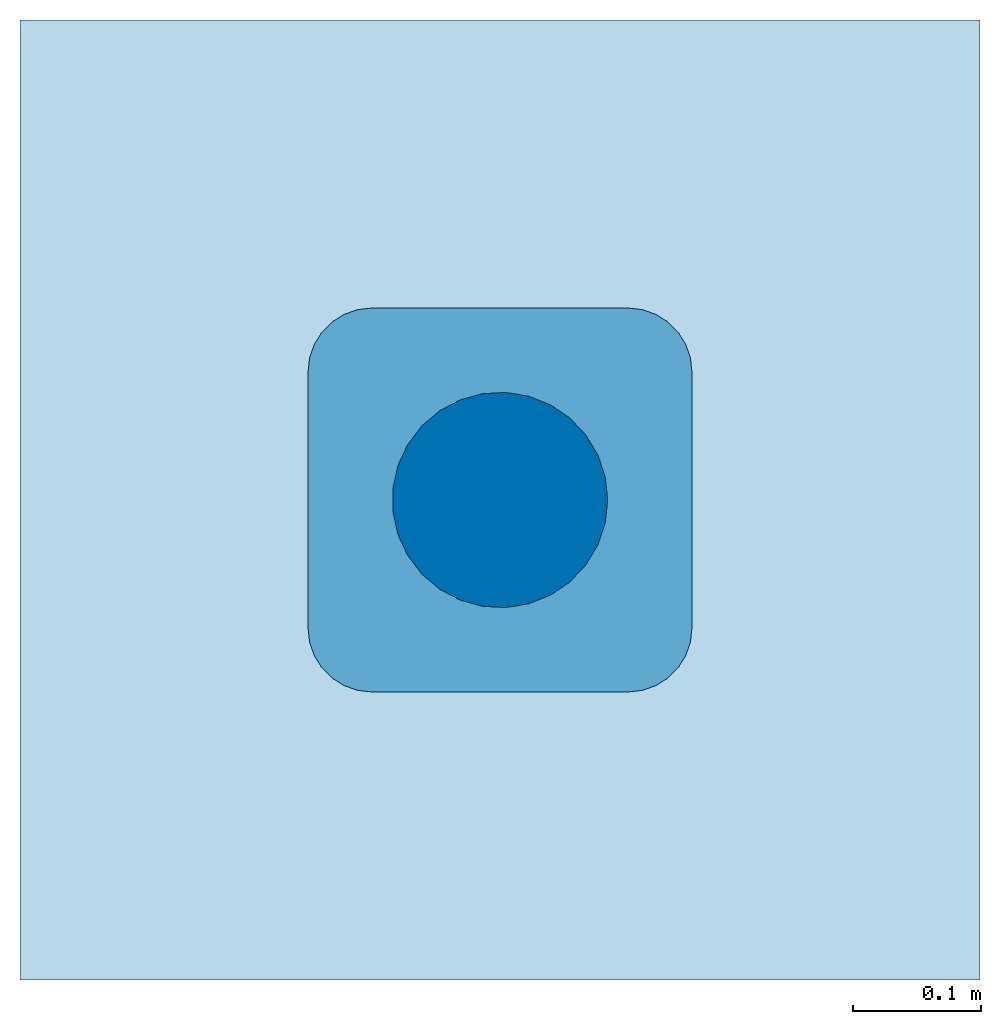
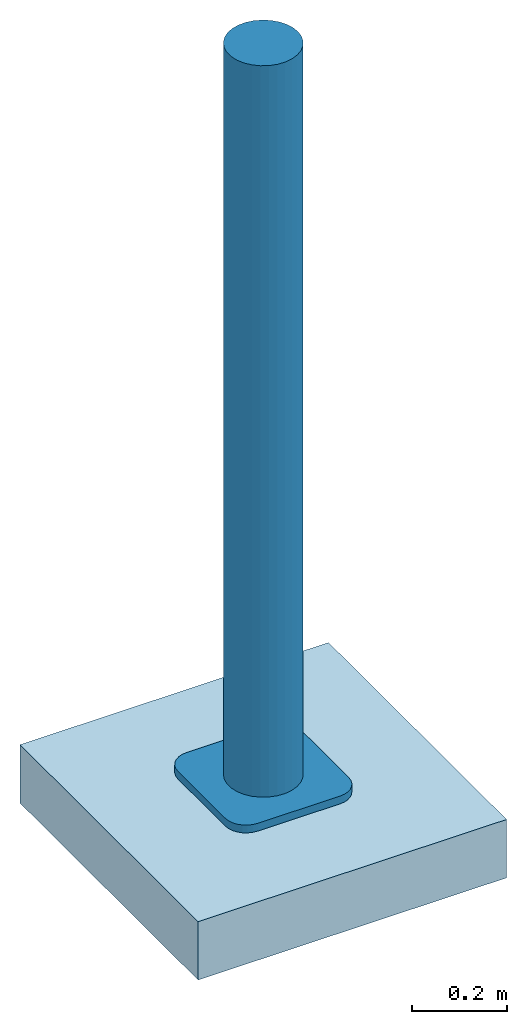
# One storey: 1 column, 1 slab.
"""IFC4 building model written with IfcOpenShell, lengths in metres."""

import ifcopenshell
import ifcopenshell.guid

model = None  # the IFC model being written
_history = None  # IfcOwnerHistory: only IFC2X3 demands one
_inside = {}  # id of a spatial element -> (the spatial element, [elements in it])
_under = {}  # id of a project, library or spatial element -> (it, [spatial elements below it])
_declared = {}  # id of a project -> (the project, [libraries it declares])
_typed = {}  # id of a type object -> (the type object, [elements of that type])
_made_of = {}  # id of a material, layer set ... -> (it, [elements and type objects made of it])


def new_model(schema):
    """Start an empty IFC model of exactly this schema.

    Asked for "IFC4X3", IfcOpenShell would pick the latest addendum, in which some entities
    have other attributes; the version numbers below select the first issue.
    IFC2X3 requires an IfcOwnerHistory on every rooted entity: one is made here for all.
    """
    global model, _history
    if schema == "IFC4X3":
        model = ifcopenshell.file(schema_version=(4, 3, 0, 0))
    else:
        model = ifcopenshell.file(schema=schema)
    _inside.clear()
    _under.clear()
    _declared.clear()
    _typed.clear()
    _made_of.clear()
    _history = None
    if model.schema == "IFC2X3":
        org = make("IfcOrganization", Name="unknown")
        user = make(
            "IfcPersonAndOrganization",
            ThePerson=make("IfcPerson", FamilyName="unknown"),
            TheOrganization=org,
        )
        app = make(
            "IfcApplication",
            ApplicationDeveloper=org,
            Version="unknown",
            ApplicationFullName="unknown",
            ApplicationIdentifier="unknown",
        )
        _history = make(
            "IfcOwnerHistory",
            OwningUser=user,
            OwningApplication=app,
            ChangeAction="ADDED",
            CreationDate=0,
        )
    return model


def make(cls, **values):
    """One entity of the class cls with the attributes given. An attribute that is None is left unset."""
    return model.create_entity(
        cls, **{name: value for name, value in values.items() if value is not None}
    )


def entity(cls, *values):
    """Any entity or typed value of the class cls, its attributes in the order of the schema. None: left unset."""
    e = model.create_entity(cls)
    for i, value in enumerate(values):
        if value is not None:
            e[i] = value
    return e


def rooted(cls, **values):
    """An entity with a GlobalId (a new one), such as an element, a storey or a relation."""
    return make(cls, GlobalId=ifcopenshell.guid.new(), OwnerHistory=_history, **values)


def si_unit(unit_type, name, prefix=None):
    """IfcSIUnit, for example si_unit("LENGTHUNIT", "METRE", prefix="MILLI")."""
    return make("IfcSIUnit", UnitType=unit_type, Prefix=prefix, Name=name)


def converted_unit(unit_type, name, factor, base, dimensions=None, offset=None):
    """IfcConversionBasedUnit, such as the inch: factor (a typed value) times the base unit."""
    return make(
        "IfcConversionBasedUnit"
        if offset is None
        else "IfcConversionBasedUnitWithOffset",
        ConversionOffset=offset,
        Dimensions=None
        if dimensions is None
        else entity("IfcDimensionalExponents", *dimensions),
        UnitType=unit_type,
        Name=name,
        ConversionFactor=make(
            "IfcMeasureWithUnit", ValueComponent=factor, UnitComponent=base
        ),
    )


def assignment(units):
    """IfcUnitAssignment: the units of a project."""
    return None if units is None else make("IfcUnitAssignment", Units=units)


def point(xyz):
    """IfcCartesianPoint."""
    return None if xyz is None else make("IfcCartesianPoint", Coordinates=xyz)


def direction(xyz):
    """IfcDirection."""
    return None if xyz is None else make("IfcDirection", DirectionRatios=xyz)


def frame(location, z_axis=None, x_axis=None):
    """IfcAxis2Placement3D, a coordinate frame: its origin and axes. An axis left out is left unset."""
    return make(
        "IfcAxis2Placement3D",
        Location=point(location),
        Axis=direction(z_axis),
        RefDirection=direction(x_axis),
    )


def frame_2d(location, x_axis=None):
    """IfcAxis2Placement2D, a coordinate frame in the plane: its origin and x axis."""
    return make(
        "IfcAxis2Placement2D", Location=point(location), RefDirection=direction(x_axis)
    )


def origin():
    """The frame at (0, 0, 0) with its axes left unset."""
    return frame((0.0, 0.0, 0.0))


def place(relative_to, where):
    """IfcLocalPlacement: puts the frame where relative to a parent placement (None: the world)."""
    return make(
        "IfcLocalPlacement", PlacementRelTo=relative_to, RelativePlacement=where
    )


def context(
    kind, dimensions, precision=None, world=None, true_north=None, identifier=None
):
    """IfcGeometricRepresentationContext, for example the 3D "Model" context."""
    return make(
        "IfcGeometricRepresentationContext",
        ContextIdentifier=identifier,
        ContextType=kind,
        CoordinateSpaceDimension=dimensions,
        Precision=precision,
        WorldCoordinateSystem=world,
        TrueNorth=true_north,
    )


def subcontext(parent, identifier, kind, view, scale=None):
    """IfcGeometricRepresentationSubContext, for example "Body" below "Model"."""
    return make(
        "IfcGeometricRepresentationSubContext",
        ContextIdentifier=identifier,
        ContextType=kind,
        ParentContext=parent,
        TargetScale=scale,
        TargetView=view,
    )


def project(units=None, contexts=None):
    """IfcProject with its units and contexts."""
    return rooted(
        "IfcProject",
        Name="project",
        RepresentationContexts=contexts,
        UnitsInContext=assignment(units),
    )


def spatial(cls, under=None, at=None, **own):
    """A site, building, storey or space (cls), placed at a placement, below another one or the project."""
    s = rooted(cls, ObjectPlacement=at, **own)
    if under is not None:
        _under.setdefault(under.id(), (under, []))[1].append(s)
    return s


def polyline(points):
    """IfcPolyline through the points."""
    return make("IfcPolyline", Points=[point(p) for p in points])


def circle_curve(where, radius):
    """IfcCircle in the frame where."""
    return make("IfcCircle", Position=where, Radius=radius)


def parameter(value):
    """IfcParameterValue: where a trimmed curve begins or ends, as a parameter of its basis curve."""
    return model.create_entity("IfcParameterValue", value)


def trimmed(basis, trim1, trim2, sense, master):
    """IfcTrimmedCurve: the piece of a basis curve between two trims."""
    return make(
        "IfcTrimmedCurve",
        BasisCurve=basis,
        Trim1=trim1,
        Trim2=trim2,
        SenseAgreement=sense,
        MasterRepresentation=master,
    )


def segment(curve, same_sense, transition):
    """IfcCompositeCurveSegment."""
    return make(
        "IfcCompositeCurveSegment",
        Transition=transition,
        SameSense=same_sense,
        ParentCurve=curve,
    )


def composite_curve(segments, self_intersect=None):
    """IfcCompositeCurve: segments joined end to end."""
    return make("IfcCompositeCurve", Segments=segments, SelfIntersect=self_intersect)


def profile(cls, at=None, kind="AREA", **sizes):
    """A parametric profile (cls). Its sizes go by their IFC names, for example OverallWidth=200.0."""
    return make(cls, ProfileType=kind, Position=at, **sizes)


def rectangle(**sizes):
    """IfcRectangleProfileDef."""
    return profile("IfcRectangleProfileDef", **sizes)


def circle(**sizes):
    """IfcCircleProfileDef."""
    return profile("IfcCircleProfileDef", **sizes)


def outline(outer, holes=None, kind="AREA"):
    """IfcArbitraryClosedProfileDef: a profile drawn as a closed curve; with holes, ...WithVoids."""
    if holes is None:
        return make("IfcArbitraryClosedProfileDef", ProfileType=kind, OuterCurve=outer)
    return make(
        "IfcArbitraryProfileDefWithVoids",
        ProfileType=kind,
        OuterCurve=outer,
        InnerCurves=holes,
    )


def extrude(swept, where, along, depth):
    """IfcExtrudedAreaSolid: the profile swept, set in the frame where, extruded along a direction by depth."""
    return make(
        "IfcExtrudedAreaSolid",
        SweptArea=swept,
        Position=where,
        ExtrudedDirection=direction(along),
        Depth=depth,
    )


def shape(context_of_items, identifier, shape_type, items):
    """IfcShapeRepresentation: the items that make up one representation, for example the "Body"."""
    return make(
        "IfcShapeRepresentation",
        ContextOfItems=context_of_items,
        RepresentationIdentifier=identifier,
        RepresentationType=shape_type,
        Items=items,
    )


def source(mapping_origin, context_of_items, identifier, shape_type, items):
    """IfcRepresentationMap: a shape defined once, which mapped items show again and again."""
    return make(
        "IfcRepresentationMap",
        MappingOrigin=mapping_origin,
        MappedRepresentation=shape(context_of_items, identifier, shape_type, items),
    )


def transform(
    local_origin,
    x_axis=None,
    y_axis=None,
    z_axis=None,
    scale=None,
    scale2=None,
    scale3=None,
    uniform=True,
):
    """IfcCartesianTransformationOperator3D, or its non-uniform kind. x_axis, y_axis, z_axis: its Axis1, 2, 3."""
    if uniform:
        return make(
            "IfcCartesianTransformationOperator3D",
            Axis1=direction(x_axis),
            Axis2=direction(y_axis),
            LocalOrigin=point(local_origin),
            Scale=scale,
            Axis3=direction(z_axis),
        )
    return make(
        "IfcCartesianTransformationOperator3DnonUniform",
        Axis1=direction(x_axis),
        Axis2=direction(y_axis),
        LocalOrigin=point(local_origin),
        Scale=scale,
        Axis3=direction(z_axis),
        Scale2=scale2,
        Scale3=scale3,
    )


def mapped(mapping_source, mapping_target):
    """IfcMappedItem: shows the shape of a source again, moved by a transform."""
    return make(
        "IfcMappedItem", MappingSource=mapping_source, MappingTarget=mapping_target
    )


def material(Name=None, Category=None):
    """IfcMaterial."""
    return make("IfcMaterial", Name=Name, Category=Category)


def material_profile(
    of_material, cross_section, Name=None, Category=None, Priority=None
):
    """IfcMaterialProfile: a cross section and its material."""
    return make(
        "IfcMaterialProfile",
        Name=Name,
        Material=of_material,
        Profile=cross_section,
        Priority=Priority,
        Category=Category,
    )


def profile_set(profiles, Name=None, composite=None):
    """IfcMaterialProfileSet."""
    return make(
        "IfcMaterialProfileSet",
        Name=Name,
        MaterialProfiles=profiles,
        CompositeProfile=composite,
    )


def made_of(thing, what):
    """Note that an element or type object is made of a material, layer set ...; save() writes the relation."""
    if what is not None:
        _made_of.setdefault(what.id(), (what, []))[1].append(thing)
    return thing


def type_object(cls, material=None, **own):
    """A type object (cls), such as IfcWallType, which elements share."""
    return made_of(rooted(cls, **own), material)


def type_shapes(of_type, sources):
    """Give a type object the sources (RepresentationMaps) that its elements show as mapped items."""
    of_type.RepresentationMaps = sources


def element(
    cls,
    number,
    at=None,
    inside=None,
    cuts=None,
    type_object=None,
    material=None,
    context=None,
    identifier="Body",
    shape_type=None,
    held_by="IfcProductDefinitionShape",
    body=None,
    shapes=None,
    **own,
):
    """One element of the class cls, such as IfcWall. Its Tag is "e" and its number.

    at: its placement. inside: the storey or other place that contains it. cuts: it is an
    opening in that element (IfcRelVoidsElement). A single representation is given by context,
    identifier, shape_type and body (its items); several are given by shapes. held_by: the class
    of the entity that holds the representations. save() writes the other relations.
    """
    e = rooted(cls, Tag="e%d" % number, ObjectPlacement=at, **own)
    if body is not None:
        shapes = [shape(context, identifier, shape_type, body)]
    if shapes is not None:
        e.Representation = make(held_by, Representations=shapes)
    if inside is not None:
        _inside.setdefault(inside.id(), (inside, []))[1].append(e)
    if cuts is not None:
        rooted(
            "IfcRelVoidsElement", RelatingBuildingElement=cuts, RelatedOpeningElement=e
        )
    if type_object is not None:
        _typed.setdefault(type_object.id(), (type_object, []))[1].append(e)
    return made_of(e, material)


def aggregate(whole, parts):
    """IfcRelAggregates: a whole, such as a stair, and the parts it consists of."""
    return rooted("IfcRelAggregates", RelatingObject=whole, RelatedObjects=parts)


def save(model, path):
    """Write the relations noted so far, then the file.

    IfcRelAggregates (storeys below a building ...), IfcRelContainedInSpatialStructure (elements
    in a storey), IfcRelDefinesByType, IfcRelAssociatesMaterial and IfcRelDeclares: one each for
    every whole, place, type object, material and project.
    """
    for whole, parts in _under.values():
        aggregate(whole, parts)
    for where, things in _inside.values():
        rooted(
            "IfcRelContainedInSpatialStructure",
            RelatedElements=things,
            RelatingStructure=where,
        )
    for kind, things in _typed.values():
        rooted("IfcRelDefinesByType", RelatedObjects=things, RelatingType=kind)
    for what, things in _made_of.values():
        rooted("IfcRelAssociatesMaterial", RelatedObjects=things, RelatingMaterial=what)
    for by, libraries in _declared.values():
        rooted("IfcRelDeclares", RelatingContext=by, RelatedDefinitions=libraries)
    model.write(path)


model = new_model("IFC4")

# Units and contexts
model_context = context("Model", 3, precision=1e-05, world=origin(), true_north=direction((6.123031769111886e-17, 1.0)))
body_context = subcontext(model_context, "Body", "Model", "MODEL_VIEW")
ifc_project = project(units=[si_unit("LENGTHUNIT", "METRE"), converted_unit("PLANEANGLEUNIT", "DEGREE", entity("IfcPlaneAngleMeasure", 0.017453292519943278), si_unit("PLANEANGLEUNIT", "RADIAN"), dimensions=[0, 0, 0, 0, 0, 0, 0]), si_unit("AREAUNIT", "SQUARE_METRE")], contexts=[model_context])

# Site, building, storey
site_placement = place(None, origin())
site = spatial("IfcSite", under=ifc_project, at=site_placement, Name="Default", CompositionType="ELEMENT")
building_placement = place(site_placement, origin())
building = spatial("IfcBuilding", under=site, at=building_placement, CompositionType="ELEMENT")
storey_placement = place(building_placement, origin())
storey = spatial("IfcBuildingStorey", under=building, at=storey_placement, Name="Ebene 0", CompositionType="ELEMENT", Elevation=0.0)

# Column
ifc_material_1 = material(Name="DB_Stahl_verzinkt_RAL9006", Category="DB_Stahl")
ifc_material_profile_1 = material_profile(ifc_material_1, circle(Radius=0.08414999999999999, at=frame_2d((-2.054097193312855e-18, -1.359480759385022e-16), x_axis=(1.0, 0.0))), Name="DB_DSA+_Minimast")
ifc_material_profile_2 = material_profile(ifc_material_1, outline(composite_curve([segment(trimmed(circle_curve(frame_2d((-0.09999999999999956, -0.09999999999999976), x_axis=(1.0, 0.0)), 0.050000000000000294), [parameter(180.00000000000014)], [parameter(269.99999999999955)], True, "PARAMETER"), True, "CONTINUOUS"), segment(polyline([(-0.09999999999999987, -0.15000000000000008), (0.09999999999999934, -0.15000000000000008)]), True, "CONTINUOUS"), segment(trimmed(circle_curve(frame_2d((0.09999999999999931, -0.09999999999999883), x_axis=(1.0, 0.0)), 0.050000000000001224), [parameter(269.9999999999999)], [parameter(359.99999999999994)], True, "PARAMETER"), True, "CONTINUOUS"), segment(polyline([(0.15000000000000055, -0.09999999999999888), (0.1500000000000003, 0.09999999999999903)]), True, "CONTINUOUS"), segment(trimmed(circle_curve(frame_2d((0.0999999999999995, 0.09999999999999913), x_axis=(1.0, 0.0)), 0.050000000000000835), [parameter(359.9999999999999)], [parameter(90.00000000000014)], True, "PARAMETER"), True, "CONTINUOUS"), segment(polyline([(0.09999999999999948, 0.14999999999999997), (-0.09999999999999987, 0.1499999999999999)]), True, "CONTINUOUS"), segment(trimmed(circle_curve(frame_2d((-0.09999999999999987, 0.10000000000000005), x_axis=(1.0, 0.0)), 0.04999999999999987), [parameter(90.00000000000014)], [parameter(180.00000000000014)], True, "PARAMETER"), True, "CONTINUOUS"), segment(polyline([(-0.14999999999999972, 0.10000000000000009), (-0.14999999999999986, -0.09999999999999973)]), True, "CONTINUOUS")], self_intersect=False)), Name="DB_DSA+_Minimast")
ifc_profile_set = profile_set([ifc_material_profile_1, ifc_material_profile_2], Name="DB_DSA+_Minimast")
column_type = type_object("IfcColumnType", Name="DB_DSA+_Minimast:DB_DSA+_Minimast", PredefinedType="COLUMN", material=ifc_profile_set)
shared_shape = source(origin(), body_context, "Body", "SweptSolid", [
    extrude(circle(Radius=0.08414999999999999, at=frame_2d((-2.054097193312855e-18, -1.359480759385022e-16), x_axis=(1.0, 0.0))), frame((0.0, 0.0, -0.18)), (0.0, 0.0, 1.0), 1.88),
    extrude(outline(composite_curve([segment(trimmed(circle_curve(frame_2d((-0.09999999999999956, -0.09999999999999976), x_axis=(1.0, 0.0)), 0.050000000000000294), [parameter(180.00000000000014)], [parameter(269.99999999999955)], True, "PARAMETER"), True, "CONTINUOUS"), segment(polyline([(-0.09999999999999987, -0.15000000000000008), (0.09999999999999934, -0.15000000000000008)]), True, "CONTINUOUS"), segment(trimmed(circle_curve(frame_2d((0.09999999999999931, -0.09999999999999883), x_axis=(1.0, 0.0)), 0.050000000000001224), [parameter(269.9999999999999)], [parameter(359.99999999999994)], True, "PARAMETER"), True, "CONTINUOUS"), segment(polyline([(0.15000000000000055, -0.09999999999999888), (0.1500000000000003, 0.09999999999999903)]), True, "CONTINUOUS"), segment(trimmed(circle_curve(frame_2d((0.0999999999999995, 0.09999999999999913), x_axis=(1.0, 0.0)), 0.050000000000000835), [parameter(359.9999999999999)], [parameter(90.00000000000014)], True, "PARAMETER"), True, "CONTINUOUS"), segment(polyline([(0.09999999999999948, 0.14999999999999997), (-0.09999999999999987, 0.1499999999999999)]), True, "CONTINUOUS"), segment(trimmed(circle_curve(frame_2d((-0.09999999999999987, 0.10000000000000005), x_axis=(1.0, 0.0)), 0.04999999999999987), [parameter(90.00000000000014)], [parameter(180.00000000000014)], True, "PARAMETER"), True, "CONTINUOUS"), segment(polyline([(-0.14999999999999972, 0.10000000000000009), (-0.14999999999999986, -0.09999999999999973)]), True, "CONTINUOUS")], self_intersect=False)), frame((0.0, 0.0, -0.2)), (0.0, 0.0, 1.0), 0.02000000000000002),
])
type_shapes(column_type, [shared_shape])
column_placement = place(storey_placement, origin())
element("IfcColumn", 1, at=column_placement, inside=storey, type_object=column_type, Name="DB_DSA+_Minimast:DB_DSA+_Minimast", ObjectType="DB_DSA+_Minimast:DB_DSA+_Minimast", PredefinedType="COLUMN", context=body_context, shape_type="MappedRepresentation", body=[
    mapped(shared_shape, transform((0.0, 0.0, 0.0), scale=1.0)),
])

# Slab
ifc_material_2 = material(Name="DB_Gusseisen_RAL7036", Category="DB_Aluminium")
slab_type = type_object("IfcSlabType", Name="DB_Minimast_Fundament:DB_Minimast_Fundament", PredefinedType="BASESLAB", material=ifc_material_2)
slab_placement = place(storey_placement, origin())
element("IfcSlab", 2, at=slab_placement, inside=storey, type_object=slab_type, Name="DB_Minimast_Fundament:DB_Minimast_Fundament", ObjectType="DB_Minimast_Fundament:DB_Minimast_Fundament", PredefinedType="BASESLAB", context=body_context, shape_type="SweptSolid", body=[
    extrude(rectangle(XDim=0.7500000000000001, YDim=0.7499999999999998, at=frame_2d((0.0, 2.7755575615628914e-17), x_axis=(1.0, 0.0))), frame((0.0, 0.0, -0.35000000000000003), z_axis=(0.0, 0.0, 1.0), x_axis=(-1.0, 0.0, 0.0)), (0.0, 0.0, 1.0), 0.15000000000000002),
])

save(model, "model.ifc")
